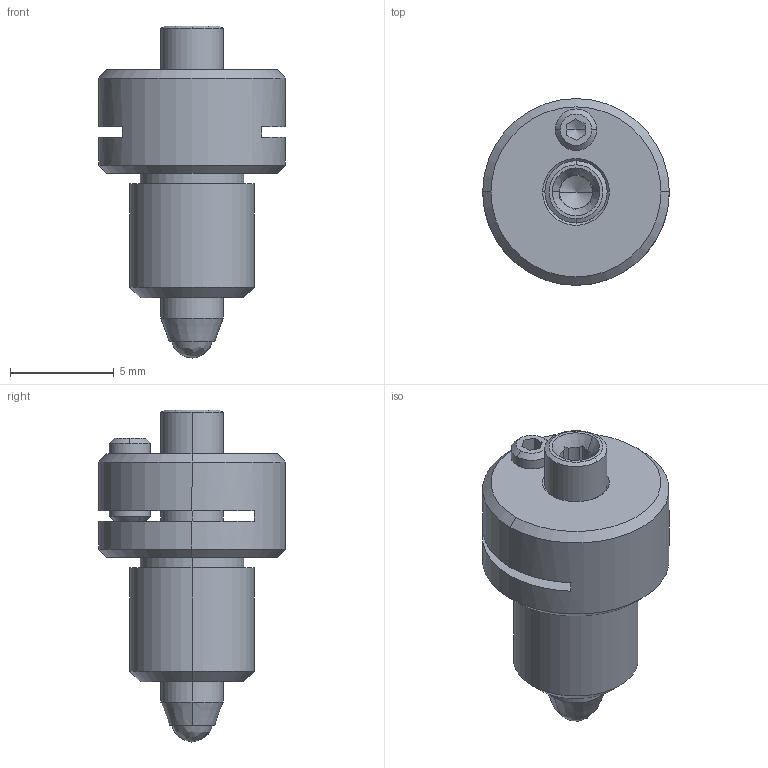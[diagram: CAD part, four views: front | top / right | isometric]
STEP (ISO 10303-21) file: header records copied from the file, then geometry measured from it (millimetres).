
FILE_DESCRIPTION (( 'STEP AP203' ), '1' );
FILE_NAME ('9SH137ML.STEP', '2007-11-15T09:02:12', ( 'STANDA' ), ( '' ), 'SwSTEP 2.0', 'SolidWorks 2003240', '' );
FILE_SCHEMA (( 'CONFIG_CONTROL_DESIGN' ));
Length unit declared in the file: millimetre
Products named in the file (1): 9SH137ML
Bounding box: 9 x 9 x 16.01 mm (x, y, z)
Volume: 470.2 mm3; surface area: 552.6 mm2
Topology: 1 solids, 1 shells, 79 faces, 200 edges, 127 vertices
Faces by surface type: plane 34, cone 25, cylinder 19, bspline 1
Entity records: 2515 total; most frequent: CARTESIAN_POINT 516, DIRECTION 415, ORIENTED_EDGE 392, EDGE_CURVE 196, AXIS2_PLACEMENT_3D 162, VERTEX_POINT 127, EDGE_LOOP 91, VECTOR 91
